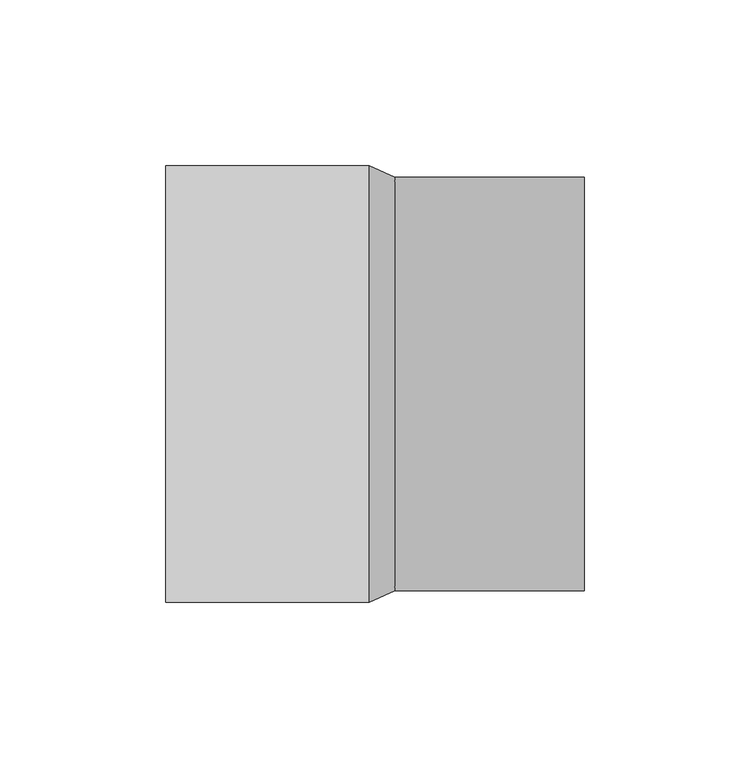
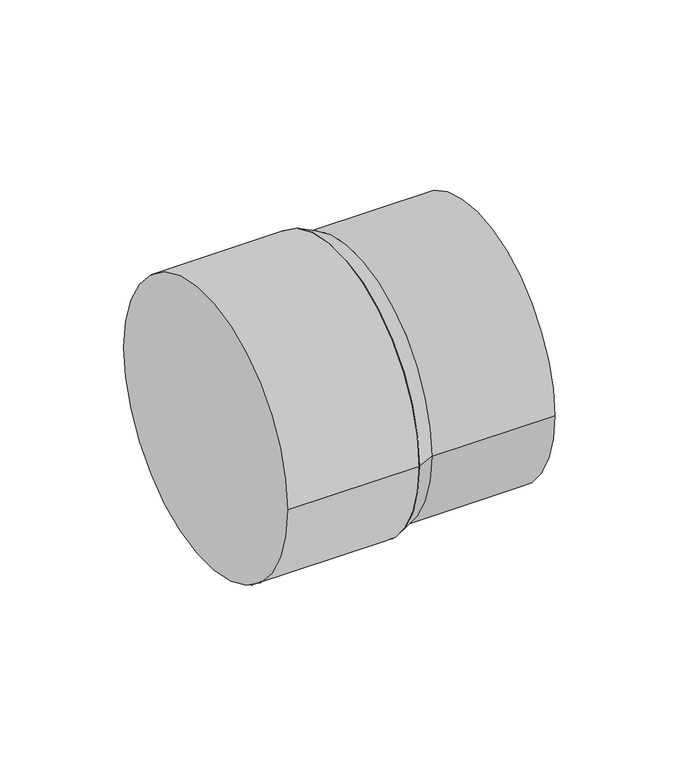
"""IFC4 building model written with IfcOpenShell, lengths in millimetres: pipe fitting geometry, NLRS_52_UN_PIF_PVC verbindingsstuk mof- vse spie_PipeLife : Grijs, var. DN/OD."""

from ifc_helpers import new_model, si_unit, point, frame, origin, origin_2d, place, context, project, spatial, polyline, circle_curve, trimmed, segment, composite_curve, outline, extrude, source, transform, mapped, element, save
from ifc_brep_helpers import plane_surface, revolved_surface, advanced_brep


def pipe_fitting_0e6800da(model_context):
    return source(origin(), model_context, "Body", "SolidModel", [
        advanced_brep(
        [(6.05, -62.5, 0.0), (6.05, 62.5, 0.0), (-1.75, -66.0, 0.0), (-1.75, 66.0, 0.0)],
        [
            (0, 1, circle_curve(frame((6.05, 0.0, 0.0), z_axis=(1.0, 0.0, 0.0), x_axis=(0.0, -1.0, 0.0)), 62.5)),
            (1, 0, circle_curve(frame((6.05, 0.0, 0.0), z_axis=(1.0, 0.0, 0.0), x_axis=(0.0, 1.0, 0.0)), 62.5)),
            (2, 3, circle_curve(frame((-1.75, 0.0, 0.0), z_axis=(-1.0, 0.0, 0.0), x_axis=(0.0, 1.0, 0.0)), 66.0)),
            (3, 2, circle_curve(frame((-1.75, 0.0, 0.0), z_axis=(-1.0, 0.0, 0.0), x_axis=(0.0, -1.0, 0.0)), 66.0)),
            (3, 1),
            (0, 2),
        ],
        [
            plane_surface(frame((6.05, 0.0, 0.0), z_axis=(1.0, 0.0, 0.0), x_axis=(0.0, 0.0, -1.0))),
            plane_surface(frame((-1.75, 0.0, 0.0), z_axis=(-1.0, 0.0, 0.0), x_axis=(0.0, 0.0, -1.0))),
            revolved_surface(polyline([(6.050000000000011, -62.50000000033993, 0.0), (-1.75, -66.0, 0.0)]), (145.3357143, 0.0, 0.0), (-1.0, 0.0, 0.0)),
            revolved_surface(polyline([(6.050000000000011, 62.50000000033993, 0.0), (-1.75, 66.0, 0.0)]), (145.3357143, 0.0, 0.0), (-1.0, 0.0, 0.0)),
        ],
        [
            (0, [[1, 2]]),
            (1, [[3, 4]]),
            (2, [[-4, 5, -1, 6]]),
            (3, [[-3, -6, -2, -5]]),
        ],
    ),
        extrude(outline(composite_curve([segment(trimmed(circle_curve(origin_2d(), 66.0), [point((66.0, 0.0))], [point((-66.0, 0.0))], False, "CARTESIAN"), True, "CONTINUOUS"), segment(trimmed(circle_curve(origin_2d(), 66.0), [point((-66.0, 0.0))], [point((66.0, 0.0))], False, "CARTESIAN"), True, "CONTINUOUS")], self_intersect=False)), frame((-63.25, 0.0, 0.0), z_axis=(1.0, 0.0, 0.0), x_axis=(0.0, 1.0, 0.0)), (0.0, 0.0, 1.0), 61.5),
        extrude(outline(composite_curve([segment(trimmed(circle_curve(origin_2d(), 62.5), [point((-62.5, 0.0))], [point((62.5, 0.0))], False, "CARTESIAN"), True, "CONTINUOUS"), segment(trimmed(circle_curve(origin_2d(), 62.5), [point((62.5, 0.0))], [point((-62.5, 0.0))], False, "CARTESIAN"), True, "CONTINUOUS")], self_intersect=False)), frame((6.05, 0.0, 0.0), z_axis=(1.0, 0.0, 0.0), x_axis=(0.0, 1.0, 0.0)), (0.0, 0.0, 1.0), 57.2),
    ])


if __name__ == "__main__":
    model = new_model("IFC4")
    model_context = context("Model", 3, world=origin())
    ifc_project = project(units=[si_unit("LENGTHUNIT", "METRE", prefix="MILLI")], contexts=[model_context])
    site = spatial("IfcSite", under=ifc_project)
    building = spatial("IfcBuilding", under=site)
    placement = place(None, origin())
    pipe_fitting_shape = pipe_fitting_0e6800da(model_context)
    element("IfcPipeFitting", 1, ObjectType="NLRS_52_UN_PIF_PVC verbindingsstuk mof- vse spie_PipeLife : Grijs, var. DN/OD", at=placement, inside=building, context=model_context, shape_type="MappedRepresentation", body=[
        mapped(pipe_fitting_shape, transform((0.0, 0.0, 0.0), x_axis=(1.0, 0.0, 0.0), y_axis=(0.0, 1.0, 0.0), z_axis=(0.0, 0.0, 1.0))),
    ])
    save(model, "model.ifc")
